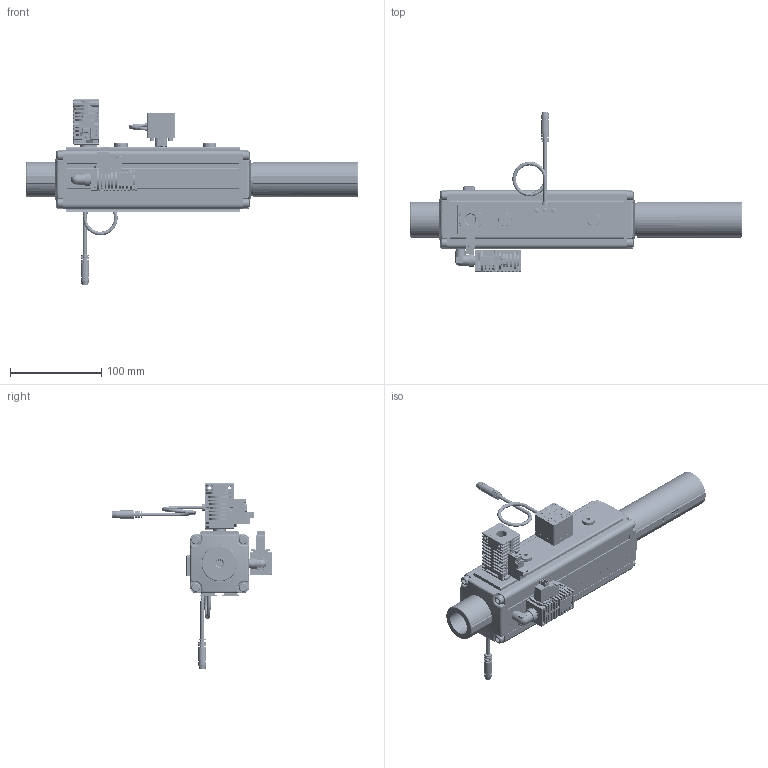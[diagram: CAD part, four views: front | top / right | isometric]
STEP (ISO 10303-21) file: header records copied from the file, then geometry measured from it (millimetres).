
FILE_DESCRIPTION( ( 'Unknown' ), '1' );
FILE_NAME( 'C:/Documents and Settings/Administrator/官帕 拳搁/PM 犁荐沥/PM303X1A-01-A3 R3-CL-S2.stp', 'Unknown', ( 'Unknown' ), ( 'Unknown' ), 'PSStep 10.0', 'Unknown', ' ' );
FILE_SCHEMA( ( 'AUTOMOTIVE_DESIGN { 1 0 10303 214 1 1 1 1 }' ) );
Length unit declared in the file: millimetre
Products named in the file (8): Assem1; 1_0_41_0; VTS-01_49_0; VP20-03-F1-C_48; Double Tread 18M-18M_48; VMS14_CON_PT14_10_0; MS18 CON_2; Elbow_18_double
Bounding box: 363.6 x 174.29 x 203.19 mm (x, y, z)
Volume: 1310903.2 mm3; surface area: 533333.9 mm2
Topology: 14 solids, 124 shells, 6786 faces, 17726 edges, 11564 vertices
Faces by surface type: plane 4374, cylinder 1818, cone 280, torus 164, bspline 110, extrusion 26, sphere 14
Full cylindrical faces by diameter (mm): 0.13 x2, 0.6 x2, 0.623 x2, 0.8 x4, 1 x36, 1.158 x2, 1.2 x8, 1.256 x2, 1.265 x2, 1.8 x4, 2.2 x4, 2.5 x12, 3 x8, 3.1 x4, 3.2 x10, 3.242 x8, 3.4 x16, 4 x8, 4.134 x16, 4.2 x8, 5 x4, 5.1 x2, 5.4 x4, 5.5 x2, 5.6 x2, 5.8 x2, 6 x28, 6.2 x2, 6.35 x2, 6.5 x20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
Entity records: 133277 total; most frequent: CARTESIAN_POINT 24625, DIRECTION 16631, ORIENTED_EDGE 16460, EDGE_CURVE 8230, VECTOR 5765, LINE 5752, VERTEX_POINT 5570, AXIS2_PLACEMENT_3D 5433
